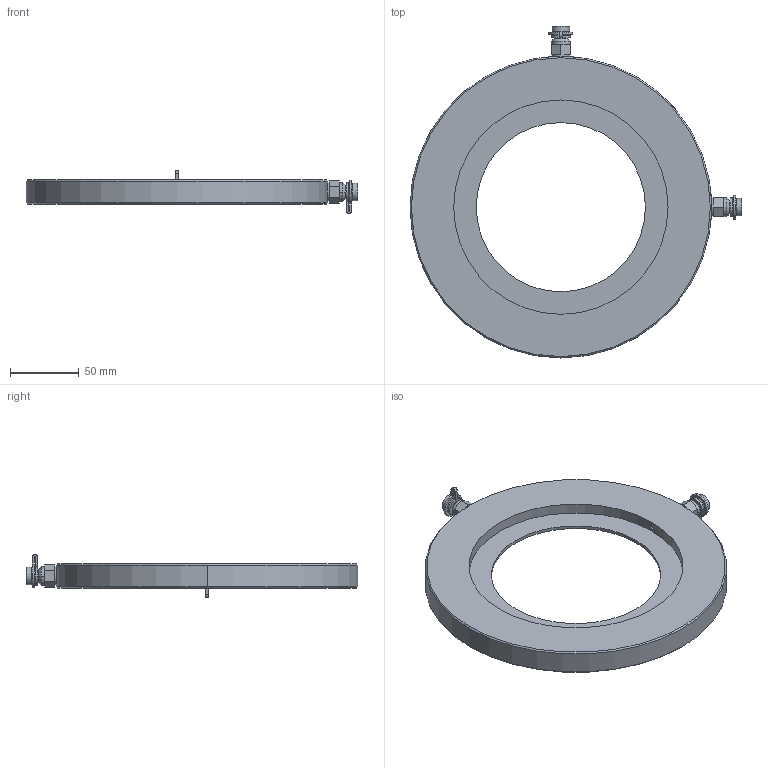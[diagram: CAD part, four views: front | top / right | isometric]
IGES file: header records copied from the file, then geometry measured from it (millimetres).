
Global section: file name: No Iges File Name specified; native system: AutoDesk Inventor R12.0; preprocessor: AutoDesk Inventor Iges Exporter R12.0; date: 20101223.111521; units: millimetre
Bounding box: 242.1 x 242.1 x 31.45 mm (x, y, z)
Volume: 361201.2 mm3; surface area: 75931.6 mm2
Topology: 1 solids, 1 shells, 125 faces, 290 edges, 186 vertices
Faces by surface type: plane 48, cylinder 29, bspline 18, cone 16, revolution 14
